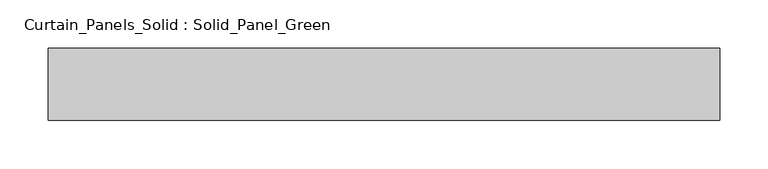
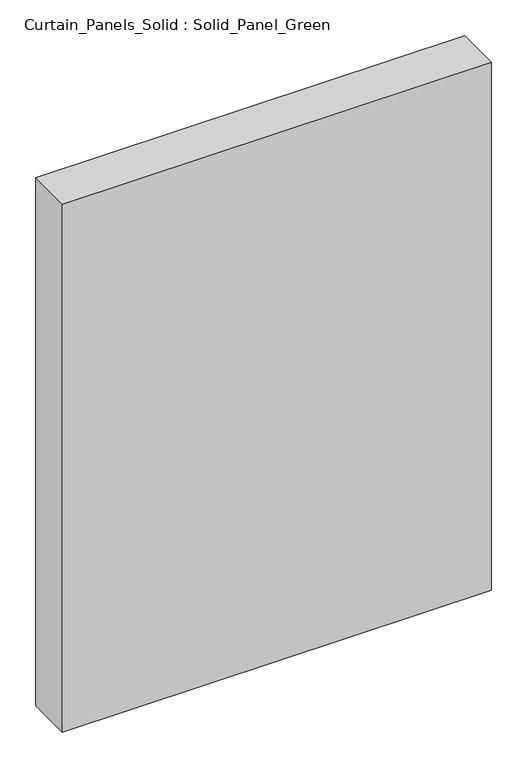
"""IFC4 building model written with IfcOpenShell, lengths in millimetres: plate geometry, Curtain_Panels_Solid : Solid_Panel_Green."""

from ifc_helpers import new_model, si_unit, origin, origin_with_axes, place, context, project, spatial, polyline, outline, extrude, source, transform, mapped, element, save


def curtain_panels_solid_solid_panel_green_d6ba0048(model_context):
    return source(origin(), model_context, "Body", "SweptSolid", [
        extrude(outline(polyline([(348.7500001, 25.0), (348.7500001, -50.0), (-348.7500001, -50.0), (-348.7500001, 25.0), (348.7500001, 25.0)])), origin_with_axes(), (0.0, 0.0, 1.0), 907.5),
    ])


if __name__ == "__main__":
    model = new_model("IFC4")
    model_context = context("Model", 3, world=origin())
    ifc_project = project(units=[si_unit("LENGTHUNIT", "METRE", prefix="MILLI")], contexts=[model_context])
    site = spatial("IfcSite", under=ifc_project)
    building = spatial("IfcBuilding", under=site)
    placement = place(None, origin())
    curtain_panels_solid_solid_panel_green_shape = curtain_panels_solid_solid_panel_green_d6ba0048(model_context)
    element("IfcPlate", 1, ObjectType="Curtain_Panels_Solid : Solid_Panel_Green", at=placement, inside=building, context=model_context, shape_type="MappedRepresentation", body=[
        mapped(curtain_panels_solid_solid_panel_green_shape, transform((0.0, 0.0, 0.0), x_axis=(1.0, 0.0, 0.0), y_axis=(0.0, 1.0, 0.0), z_axis=(0.0, 0.0, 1.0))),
    ])
    save(model, "model.ifc")
